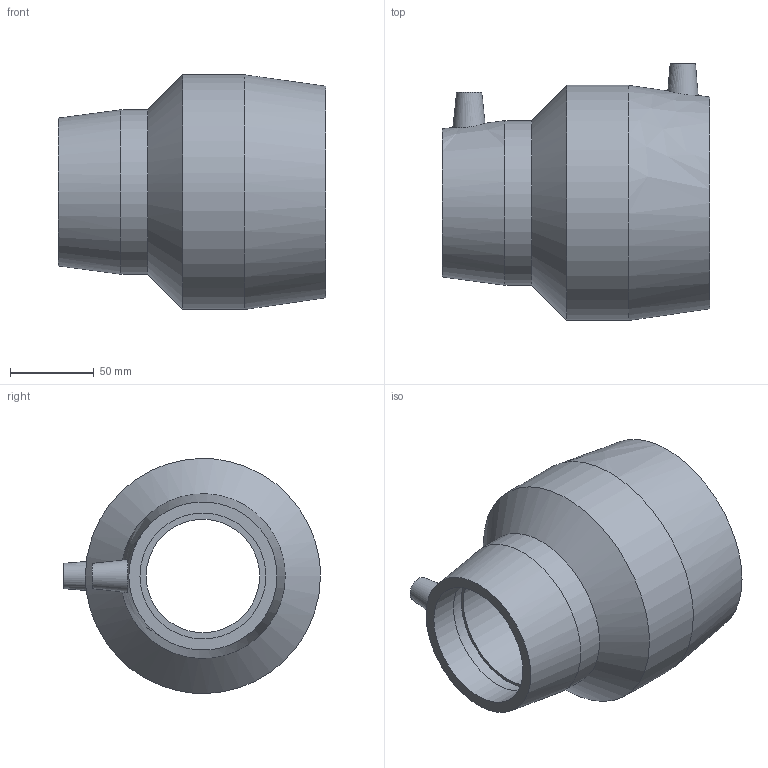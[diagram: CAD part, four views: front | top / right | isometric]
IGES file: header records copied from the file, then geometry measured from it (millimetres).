
Global section: file name: 491104110075; native system: Autodesk Inventor 2019; preprocessor: unknown; author: KIM; date: 20221117.140218; units: millimetre
Bounding box: 159 x 153 x 139.89 mm (x, y, z)
Volume: 706308.3 mm3; surface area: 123733.1 mm2
Topology: 1 solids, 1 shells, 31 faces, 72 edges, 53 vertices
Faces by surface type: bspline 31
